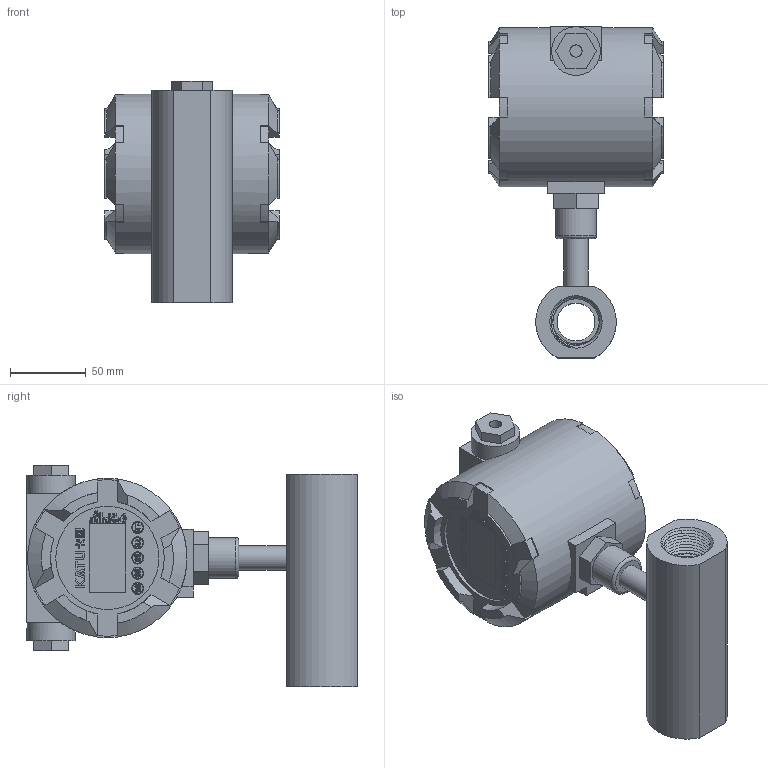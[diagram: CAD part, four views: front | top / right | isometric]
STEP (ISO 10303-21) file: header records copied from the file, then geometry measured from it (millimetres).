
FILE_DESCRIPTION( (''), '2;1');
FILE_NAME( 'QTKC_DN25_female-thread_Ex.step', '2024-10-14T14:40:24+08:00', (''), (''), '', '', '');
FILE_SCHEMA (('AUTOMOTIVE_DESIGN { 1 0 10303 214 3 1 1 1 }'));
Length unit declared in the file: millimetre
Products named in the file (1): QTKC DN25_female-thread_Ex
Bounding box: 115 x 218.5 x 146.2 mm (x, y, z)
Volume: 1158119.7 mm3; surface area: 121277 mm2
Topology: 4 solids, 4 shells, 1341 faces, 3667 edges, 2436 vertices
Faces by surface type: plane 725, extrusion 504, cylinder 69, bspline 20, cone 17, torus 6
Full cylindrical faces by diameter (mm): 3.3 x1, 8 x2, 15 x1, 16 x1, 18.5 x1, 20 x2, 25 x1, 27 x1, 30.5 x2, 32 x2, 68 x1, 105 x1
Entity records: 46611 total; most frequent: CARTESIAN_POINT 14936, ORIENTED_EDGE 7242, DIRECTION 4789, EDGE_CURVE 3621, VECTOR 2795, VERTEX_POINT 2418, LINE 2291, B_SPLINE_CURVE_WITH_KNOTS 1653
